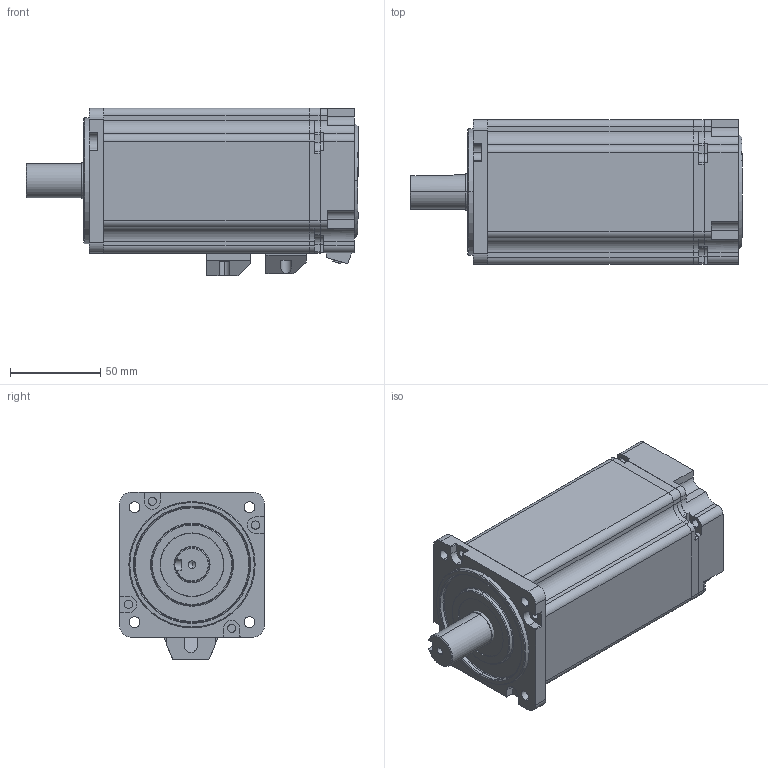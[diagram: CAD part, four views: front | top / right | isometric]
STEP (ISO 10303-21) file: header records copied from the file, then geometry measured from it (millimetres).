
FILE_DESCRIPTION (( 'STEP AP203' ), '1' );
FILE_NAME ('1KW惕掅.STEP', '2023-10-23T06:50:05', ( '' ), ( '' ), 'SwSTEP 2.0', 'SolidWorks 2018', '' );
FILE_SCHEMA (( 'CONFIG_CONTROL_DESIGN' ));
Length unit declared in the file: millimetre
Products named in the file (9): 雄薯盄揤啣; 綴裔; 3.2N.M惕掅儂褲; 1.27N.M蛌粣; 85揤啣; 情遴綴欶; ヶ裔; 1KW惕掅; 蚐猾
Assembly tree (8 placements, depth 2):
  1KW惕掅
    1.27N.M蛌粣
    情遴綴欶
    雄薯盄揤啣
    綴裔
    ヶ裔
    蚐猾
    3.2N.M惕掅儂褲
    85揤啣
Bounding box: 184 x 80.2 x 92.7 mm (x, y, z)
Volume: 258045.5 mm3; surface area: 147552.4 mm2
Topology: 8 solids, 8 shells, 842 faces, 2217 edges, 1364 vertices
Faces by surface type: cylinder 371, plane 291, cone 57, sphere 50, torus 49, bspline 24
Entity records: 27424 total; most frequent: CARTESIAN_POINT 5311, DIRECTION 4705, ORIENTED_EDGE 4306, EDGE_CURVE 2153, AXIS2_PLACEMENT_3D 1832, VERTEX_POINT 1364, LINE 1041, VECTOR 1041
